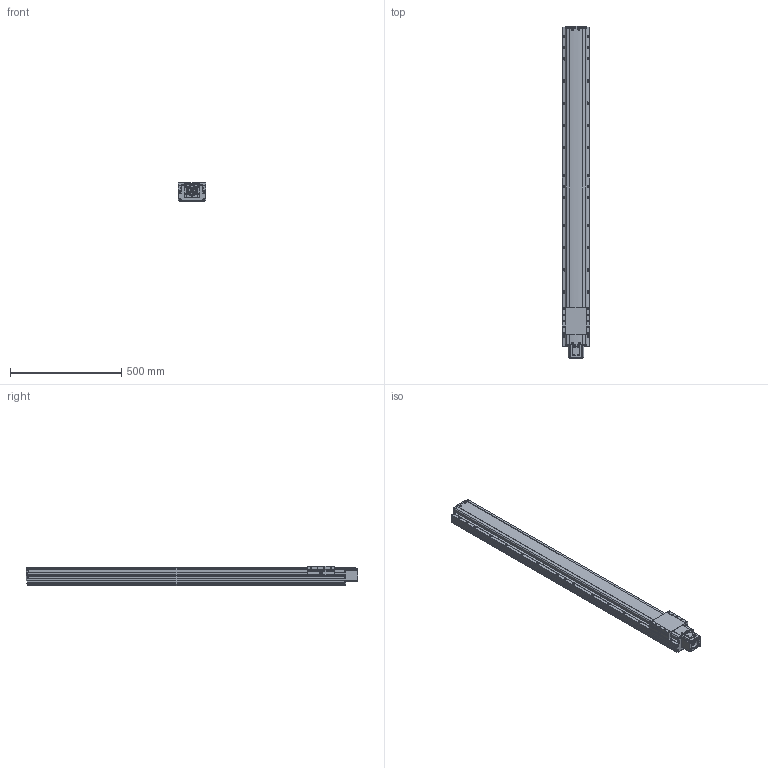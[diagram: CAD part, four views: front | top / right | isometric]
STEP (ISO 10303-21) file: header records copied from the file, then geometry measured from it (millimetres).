
FILE_DESCRIPTION(('STEP AP214'),'1');
FILE_NAME('Z:/Web/3D/PSA125/STP/PSA125-1200 (3D)/PSA125ㅁㅁ-1200S.stp','2014-06-23T05:26:31',(' '),(' '),'Spatial InterOp 3D',' ',' ');
FILE_SCHEMA(('automotive_design'));
Length unit declared in the file: millimetre
Products named in the file (35): 스크루 : Round - M4.0 x 10.0; RRCV-PA120; SLIDE; BASE; FRCV-PA120-1(기준 뿔 제거); RR1500; 스크루 : Round - M4.0 x 6.0; 너트 : Square - M10.0 x 220.7419; SSFX-SAN65; CPLCV-SAN65; 스크루 : Round - M3.0 x 6.0; MTHZ-PA120-S60A-3; 스크루 : Socket - M4.0 x 20.0; FRCV; NONE
Bounding box: 125 x 1494.6 x 86 mm (x, y, z)
Volume: 12131499.3 mm3; surface area: 969144.5 mm2
Topology: 35 solids, 69 shells, 3298 faces, 8478 edges, 5316 vertices
Faces by surface type: plane 1481, cylinder 1095, cone 457, torus 174, sphere 50, bspline 41
Entity records: 130104 total; most frequent: CARTESIAN_POINT 21594, DIRECTION 17760, ORIENTED_EDGE 16580, EDGE_CURVE 8290, AXIS2_PLACEMENT_3D 6454, VERTEX_POINT 5316, LINE 4852, VECTOR 4852
